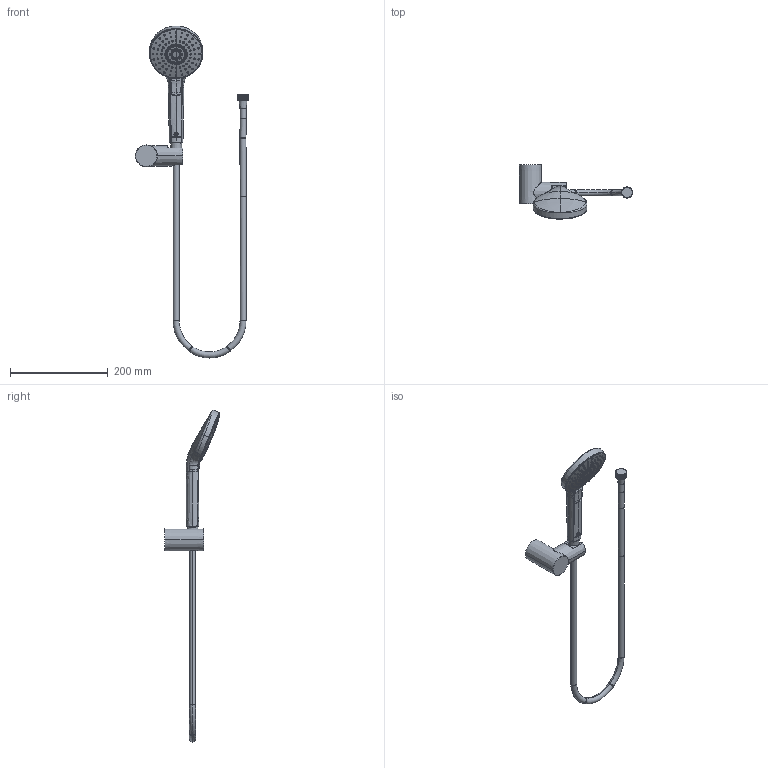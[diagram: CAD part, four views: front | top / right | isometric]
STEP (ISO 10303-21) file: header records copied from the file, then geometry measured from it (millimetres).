
FILE_DESCRIPTION((''),'2;1');
FILE_NAME('B2618AA_3DPL_','2021-02-25T',('HristovG'),('AMERICAN STANDARD B&K'),'CREO PARAMETRIC BY PTC INC, 2018360','CREO PARAMETRIC BY PTC INC, 2018360','');
FILE_SCHEMA(('CONFIG_CONTROL_DESIGN'));
Length unit declared in the file: millimetre
Products named in the file (1): B2618AA_3DPL_
Bounding box: 232.13 x 112 x 680.13 mm (x, y, z)
Volume: 632600.1 mm3; surface area: 103702 mm2
Topology: 2 solids, 2 shells, 1677 faces, 4147 edges, 2568 vertices
Faces by surface type: bspline 916, cone 217, plane 175, cylinder 172, sphere 80, extrusion 70, torus 41, revolution 6
Entity records: 95439 total; most frequent: CARTESIAN_POINT 63797, ORIENTED_EDGE 8290, EDGE_CURVE 4145, DIRECTION 3681, B_SPLINE_CURVE_WITH_KNOTS 2690, VERTEX_POINT 2568, EDGE_LOOP 1773, FACE_OUTER_BOUND 1677
